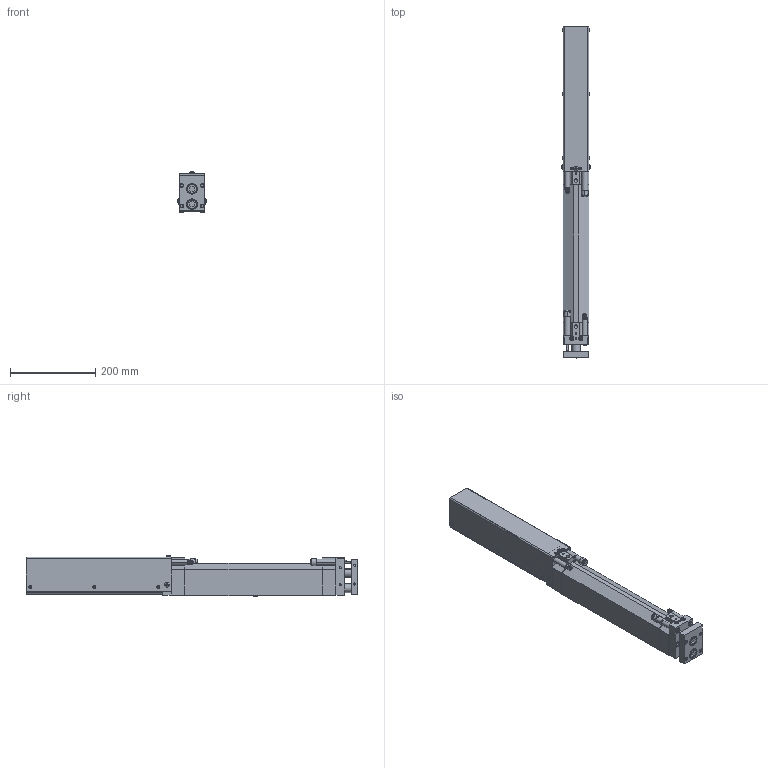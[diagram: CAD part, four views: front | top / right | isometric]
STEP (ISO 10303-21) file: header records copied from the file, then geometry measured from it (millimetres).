
FILE_DESCRIPTION((''),'2;1');
FILE_NAME('V:\CAD\Inventor-Stp\LE 32\stp\01-03-000.stp','2003-11-11T10:22:59',('VS'),(''),'Autodesk Inventor (R) 6.0','Autodesk Inventor (R) 6.0','');
FILE_SCHEMA(('CONFIG_CONTROL_DESIGN'));
Length unit declared in the file: millimetre
Products named in the file (3): Baugruppe1; 01-03-000-a; 01-03-000-b
Assembly tree (2 placements, depth 2):
  Baugruppe1
    01-03-000-a
    01-03-000-b
Bounding box: 66.6 x 777.5 x 95.15 mm (x, y, z)
Volume: 1720572.3 mm3; surface area: 628411 mm2
Topology: 52 solids, 57 shells, 1573 faces, 3696 edges, 2280 vertices
Faces by surface type: bspline 547, plane 391, cone 276, cylinder 275, torus 84
Entity records: 52988 total; most frequent: CARTESIAN_POINT 18089, DIRECTION 7241, ORIENTED_EDGE 7154, EDGE_CURVE 3577, AXIS2_PLACEMENT_3D 2874, VERTEX_POINT 2280, EDGE_LOOP 1849, CIRCLE 1843
